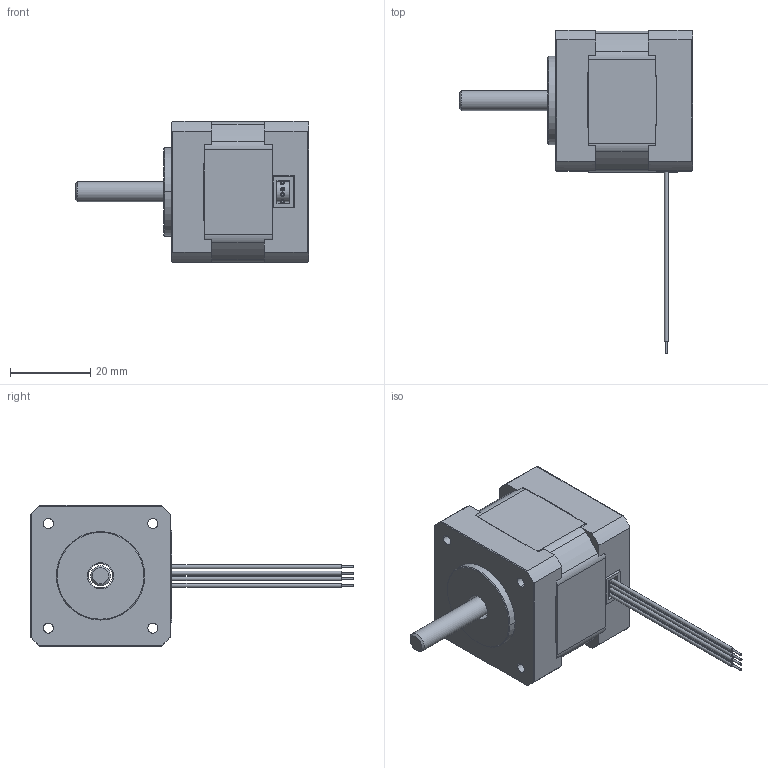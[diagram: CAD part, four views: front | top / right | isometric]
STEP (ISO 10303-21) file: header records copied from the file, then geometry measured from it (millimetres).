
FILE_DESCRIPTION( ('This file contains a STEP AP42 implementation' ,'as created by ZW3D STEP Interface translator.' ,'') ,'2;1' );
FILE_NAME( '35H34H-1004A-XXX.stp' ,'26 114.162931', (''), ('ZWCAD Software Co.'), 'Version 1.0', 'ZW3D to STEP translator', '' );
FILE_SCHEMA(('AUTOMOTIVE_DESIGN { 1 0 10303 214 1 1 1 1 }'));
Length unit declared in the file: millimetre
Products named in the file (1): 0
Bounding box: 58 x 80.51 x 35.09 mm (x, y, z)
Volume: 18371.4 mm3; surface area: 17927 mm2
Topology: 6 solids, 6 shells, 458 faces, 1382 edges, 882 vertices
Faces by surface type: plane 266, cylinder 159, bspline 29, cone 4
Full cylindrical faces by diameter (mm): 0.5 x8, 1 x2, 1.2 x8, 3.2 x4, 3.4 x4, 5 x1, 5.8 x4, 6 x1, 6.5 x1, 27.79 x1
Entity records: 16835 total; most frequent: CARTESIAN_POINT 3568, ORIENTED_EDGE 2764, DIRECTION 2685, EDGE_CURVE 1382, AXIS2_PLACEMENT_3D 915, VERTEX_POINT 882, VECTOR 855, LINE 855
